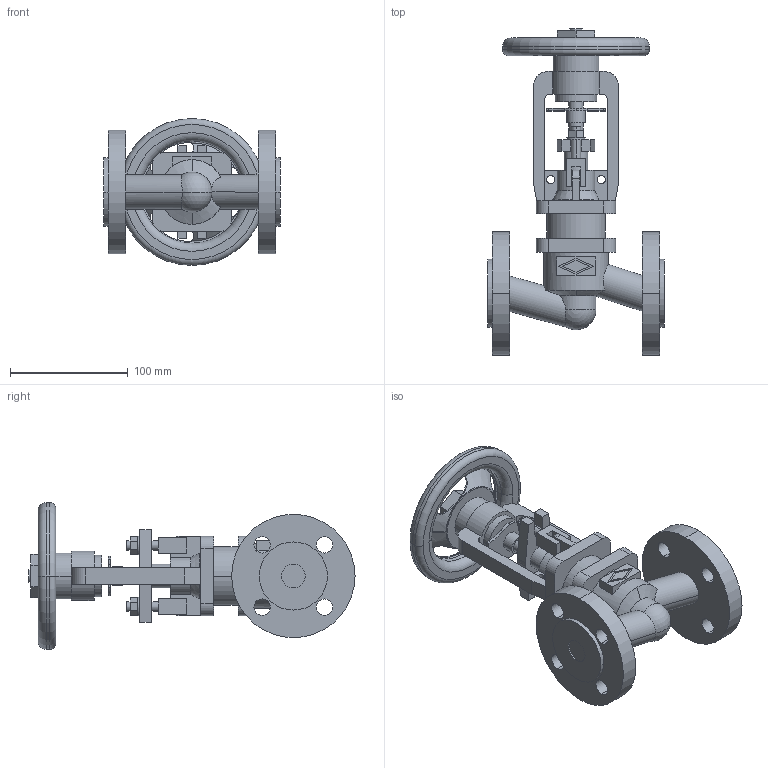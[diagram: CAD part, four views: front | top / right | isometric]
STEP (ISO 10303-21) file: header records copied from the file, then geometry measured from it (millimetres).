
FILE_DESCRIPTION(('OneSpaceDesigner STEP Export'),'2;1');
FILE_NAME('c000003725.stp','2009-06-15T12:28:03',(''),(''),'OneSpace Designer STEP processor for AP214 (Solid Model)','OneSpace Modeling 15.50B 03-Nov-2007 (C) CoCreate Software GmbH','');
FILE_SCHEMA(('AUTOMOTIVE_DESIGN { 1 0 10303 214 1 1 1 1 }'));
Length unit declared in the file: millimetre
Products named in the file (1): 1
Bounding box: 150 x 277.5 x 125 mm (x, y, z)
Volume: 821890.3 mm3; surface area: 152774.3 mm2
Topology: 1 solids, 1 shells, 283 faces, 755 edges, 496 vertices
Faces by surface type: plane 140, cylinder 113, cone 14, torus 14, sphere 2
Entity records: 11157 total; most frequent: CARTESIAN_POINT 2134, ORIENTED_EDGE 1506, DIRECTION 1258, EDGE_CURVE 753, VERTEX_POINT 496, AXIS2_PLACEMENT_3D 420, VECTOR 418, LINE 418
